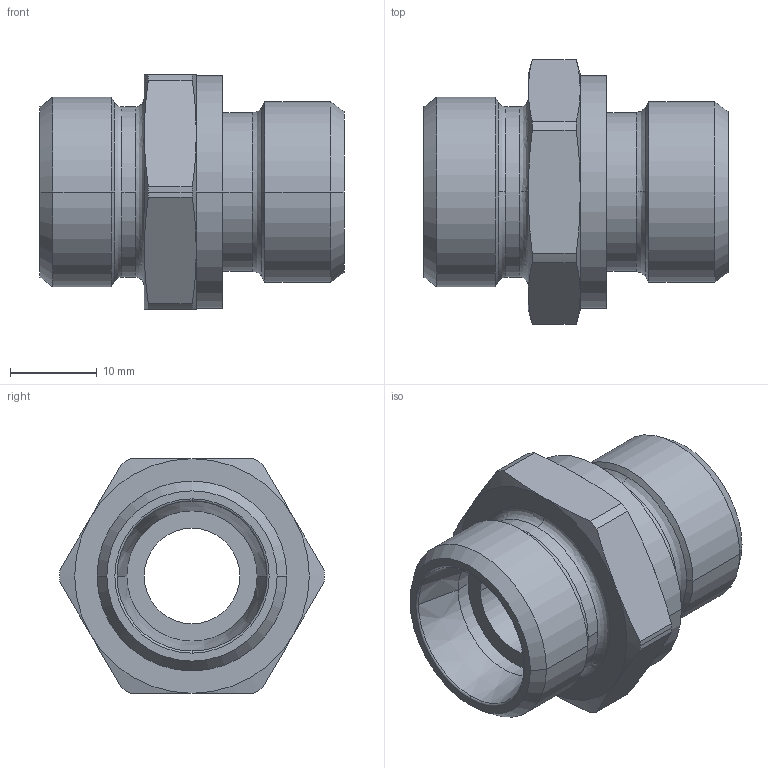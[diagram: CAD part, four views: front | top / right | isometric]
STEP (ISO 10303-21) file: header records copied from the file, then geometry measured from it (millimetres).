
FILE_DESCRIPTION((''),'2;1');
FILE_NAME('100508.stp','2007-10-30T14:17:38',(''),(''),'AutoCAD STEP 2000i','AutoCAD 2000i',', , ');
FILE_SCHEMA(('CONFIG_CONTROL_DESIGN'));
Length unit declared in the file: millimetre
Products named in the file (2): 100508.0; CHIAVE SMUSSATA#0
Assembly tree (1 placements, depth 2):
  100508.0
    CHIAVE SMUSSATA#0
Bounding box: 35 x 30.5 x 27 mm (x, y, z)
Volume: 9615.3 mm3; surface area: 4990 mm2
Topology: 1 solids, 1 shells, 75 faces, 185 edges, 117 vertices
Faces by surface type: cylinder 24, cone 24, plane 13, bspline 12, torus 2
Entity records: 2835 total; most frequent: CARTESIAN_POINT 955, DIRECTION 410, ORIENTED_EDGE 370, EDGE_CURVE 185, AXIS2_PLACEMENT_3D 184, CIRCLE 119, VERTEX_POINT 117, EDGE_LOOP 82
